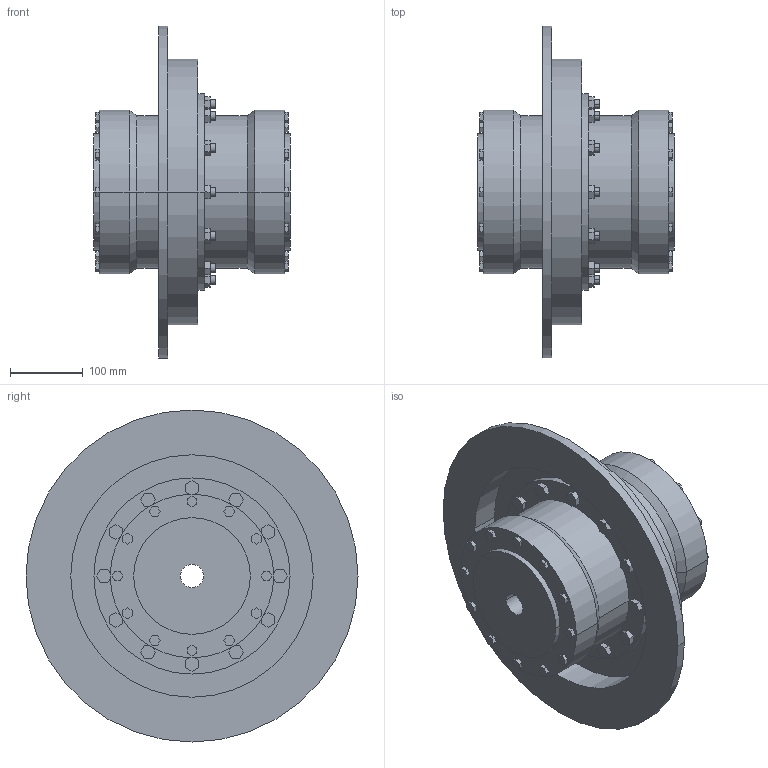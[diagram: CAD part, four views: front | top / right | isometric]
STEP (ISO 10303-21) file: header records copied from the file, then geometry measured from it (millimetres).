
FILE_DESCRIPTION((''),'2;1');
FILE_NAME('A19101300-0_ASM','2019-05-23T',('AB_Roschiwal'),('RENK AG'),'PRO/ENGINEER BY PARAMETRIC TECHNOLOGY CORPORATION, 2015440','PRO/ENGINEER BY PARAMETRIC TECHNOLOGY CORPORATION, 2015440','');
FILE_SCHEMA(('CONFIG_CONTROL_DESIGN'));
Length unit declared in the file: millimetre
Products named in the file (4): SBKT100_GEHAEUSE; SBKT100_NABE; SBKT100_BREMSSCHEIBE; A19101300-0_ASM
Assembly tree (4 placements, depth 2):
  A19101300-0_ASM
    SBKT100_GEHAEUSE
    SBKT100_NABE  x2
    SBKT100_BREMSSCHEIBE
Bounding box: 271 x 457 x 457 mm (x, y, z)
Volume: 10596644.5 mm3; surface area: 1137784.4 mm2
Topology: 4 solids, 4 shells, 470 faces, 1156 edges, 768 vertices
Faces by surface type: plane 370, cylinder 96, cone 4
Entity records: 13604 total; most frequent: CARTESIAN_POINT 2350, ORIENTED_EDGE 2264, DIRECTION 2240, EDGE_CURVE 1132, VECTOR 956, LINE 956, VERTEX_POINT 752, AXIS2_PLACEMENT_3D 642
